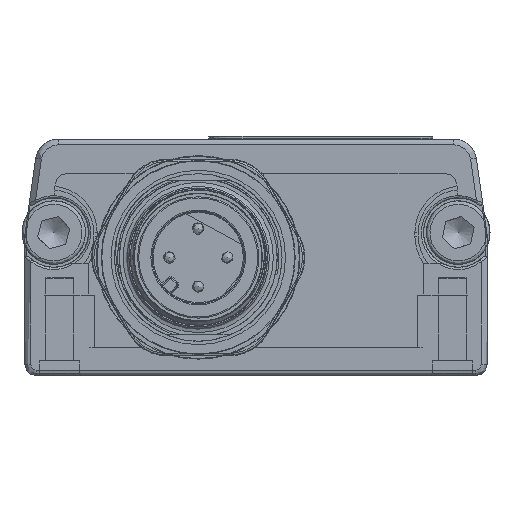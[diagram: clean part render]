
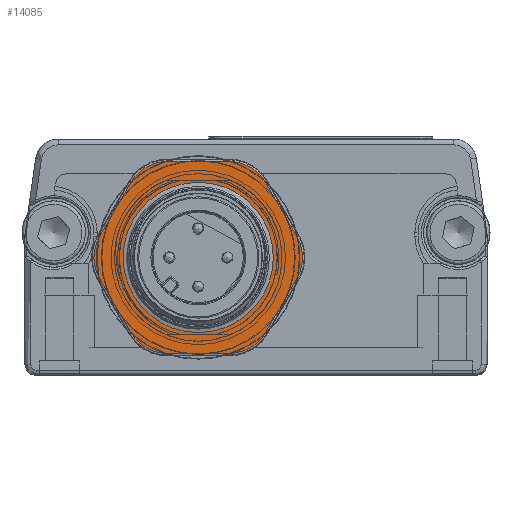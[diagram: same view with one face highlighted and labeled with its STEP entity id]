
A CAD part, front view. The second image highlights one B-rep face of the part: STEP entity #14085.
In plain terms, the highlighted planar face has unit normal (0, -1, 0).
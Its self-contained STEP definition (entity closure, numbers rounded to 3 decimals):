
#193=FACE_BOUND('',#2417,.T.);
#643=CIRCLE('',#15052,3.6);
#648=CIRCLE('',#15059,3.6);
#651=CIRCLE('',#15064,3.6);
#654=CIRCLE('',#15069,3.6);
#658=CIRCLE('',#15075,3.6);
#662=CIRCLE('',#15081,3.6);
#663=CIRCLE('',#15089,6.5);
#664=CIRCLE('',#15090,6.5);
#1107=PLANE('',#15088);
#1640=FACE_OUTER_BOUND('',#2416,.T.);
#2416=EDGE_LOOP('',(#10586,#10587,#10588,#10589,#10590,#10591,#10592,#10593,
#10594,#10595,#10596,#10597));
#2417=EDGE_LOOP('',(#10598,#10599));
#3651=LINE('',#25957,#4714);
#3652=LINE('',#25965,#4715);
#3653=LINE('',#25973,#4716);
#3654=LINE('',#25981,#4717);
#3656=LINE('',#25993,#4719);
#3657=LINE('',#26001,#4720);
#4714=VECTOR('',#17366,10.);
#4715=VECTOR('',#17377,10.);
#4716=VECTOR('',#17388,10.);
#4717=VECTOR('',#17399,10.);
#4719=VECTOR('',#17413,10.);
#4720=VECTOR('',#17424,10.);
#6051=VERTEX_POINT('',#25946);
#6052=VERTEX_POINT('',#25948);
#6054=VERTEX_POINT('',#25954);
#6055=VERTEX_POINT('',#25959);
#6056=VERTEX_POINT('',#25963);
#6057=VERTEX_POINT('',#25967);
#6058=VERTEX_POINT('',#25971);
#6059=VERTEX_POINT('',#25975);
#6060=VERTEX_POINT('',#25979);
#6061=VERTEX_POINT('',#25983);
#6063=VERTEX_POINT('',#25989);
#6065=VERTEX_POINT('',#25995);
#6067=VERTEX_POINT('',#26014);
#6068=VERTEX_POINT('',#26015);
#7679=EDGE_CURVE('',#6051,#6052,#643,.T.);
#7684=EDGE_CURVE('',#6052,#6054,#3651,.T.);
#7686=EDGE_CURVE('',#6054,#6055,#648,.T.);
#7688=EDGE_CURVE('',#6055,#6056,#3652,.T.);
#7690=EDGE_CURVE('',#6056,#6057,#651,.T.);
#7692=EDGE_CURVE('',#6057,#6058,#3653,.T.);
#7694=EDGE_CURVE('',#6058,#6059,#654,.T.);
#7696=EDGE_CURVE('',#6059,#6060,#3654,.T.);
#7699=EDGE_CURVE('',#6060,#6061,#658,.T.);
#7702=EDGE_CURVE('',#6061,#6063,#3656,.T.);
#7705=EDGE_CURVE('',#6063,#6065,#662,.T.);
#7706=EDGE_CURVE('',#6065,#6051,#3657,.T.);
#7713=EDGE_CURVE('',#6067,#6068,#663,.T.);
#7714=EDGE_CURVE('',#6068,#6067,#664,.T.);
#10586=ORIENTED_EDGE('',*,*,#7679,.F.);
#10587=ORIENTED_EDGE('',*,*,#7706,.F.);
#10588=ORIENTED_EDGE('',*,*,#7705,.F.);
#10589=ORIENTED_EDGE('',*,*,#7702,.F.);
#10590=ORIENTED_EDGE('',*,*,#7699,.F.);
#10591=ORIENTED_EDGE('',*,*,#7696,.F.);
#10592=ORIENTED_EDGE('',*,*,#7694,.F.);
#10593=ORIENTED_EDGE('',*,*,#7692,.F.);
#10594=ORIENTED_EDGE('',*,*,#7690,.F.);
#10595=ORIENTED_EDGE('',*,*,#7688,.F.);
#10596=ORIENTED_EDGE('',*,*,#7686,.F.);
#10597=ORIENTED_EDGE('',*,*,#7684,.F.);
#10598=ORIENTED_EDGE('',*,*,#7713,.F.);
#10599=ORIENTED_EDGE('',*,*,#7714,.F.);
#14085=ADVANCED_FACE('',(#1640,#193),#1107,.T.);
#15052=AXIS2_PLACEMENT_3D('',#25949,#17355,#17356);
#15059=AXIS2_PLACEMENT_3D('',#25961,#17371,#17372);
#15064=AXIS2_PLACEMENT_3D('',#25969,#17382,#17383);
#15069=AXIS2_PLACEMENT_3D('',#25977,#17393,#17394);
#15075=AXIS2_PLACEMENT_3D('',#25987,#17406,#17407);
#15081=AXIS2_PLACEMENT_3D('',#25999,#17420,#17421);
#15088=AXIS2_PLACEMENT_3D('',#26013,#17441,#17442);
#15089=AXIS2_PLACEMENT_3D('',#26016,#17443,#17444);
#15090=AXIS2_PLACEMENT_3D('',#26017,#17445,#17446);
#17355=DIRECTION('center_axis',(0.,1.,0.));
#17356=DIRECTION('ref_axis',(-0.5,0.,-0.866));
#17366=DIRECTION('',(-0.5,0.,0.866));
#17371=DIRECTION('center_axis',(0.,1.,0.));
#17372=DIRECTION('ref_axis',(-1.,0.,0.));
#17377=DIRECTION('',(0.5,0.,0.866));
#17382=DIRECTION('center_axis',(0.,1.,0.));
#17383=DIRECTION('ref_axis',(-0.5,0.,0.866));
#17388=DIRECTION('',(1.,0.,0.));
#17393=DIRECTION('center_axis',(0.,1.,0.));
#17394=DIRECTION('ref_axis',(0.5,0.,0.866));
#17399=DIRECTION('',(0.5,0.,-0.866));
#17406=DIRECTION('center_axis',(0.,1.,0.));
#17407=DIRECTION('ref_axis',(1.,0.,0.));
#17413=DIRECTION('',(-0.5,0.,-0.866));
#17420=DIRECTION('center_axis',(0.,1.,0.));
#17421=DIRECTION('ref_axis',(0.5,0.,-0.866));
#17424=DIRECTION('',(-1.,0.,0.));
#17441=DIRECTION('center_axis',(0.,-1.,0.));
#17442=DIRECTION('ref_axis',(-1.,0.,0.));
#17443=DIRECTION('center_axis',(0.,-1.,0.));
#17444=DIRECTION('ref_axis',(0.,0.,
1.));
#17445=DIRECTION('center_axis',(0.,-1.,0.));
#17446=DIRECTION('ref_axis',(0.,0.,
1.));
#25946=CARTESIAN_POINT('',(-46.428,-12.9,10.329));
#25948=CARTESIAN_POINT('',(-49.546,-12.9,12.129));
#25949=CARTESIAN_POINT('Origin',(-46.428,-12.9,13.929));
#25954=CARTESIAN_POINT('',(-52.26,-12.9,16.829));
#25957=CARTESIAN_POINT('',(-52.13,-12.9,16.604));
#25959=CARTESIAN_POINT('',(-52.26,-12.9,20.429));
#25961=CARTESIAN_POINT('Origin',(-49.142,-12.9,18.629));
#25963=CARTESIAN_POINT('',(-49.546,-12.9,25.129));
#25965=CARTESIAN_POINT('',(-49.676,-12.9,24.904));
#25967=CARTESIAN_POINT('',(-46.428,-12.9,26.929));
#25969=CARTESIAN_POINT('Origin',(-46.428,-12.9,23.329));
#25971=CARTESIAN_POINT('',(-41.001,-12.9,26.929));
#25973=CARTESIAN_POINT('',(-41.261,-12.9,26.929));
#25975=CARTESIAN_POINT('',(-37.884,-12.9,25.129));
#25977=CARTESIAN_POINT('Origin',(-41.001,-12.9,23.329));
#25979=CARTESIAN_POINT('',(-35.17,-12.9,20.429));
#25981=CARTESIAN_POINT('',(-35.3,-12.9,20.654));
#25983=CARTESIAN_POINT('',(-35.17,-12.9,16.829));
#25987=CARTESIAN_POINT('Origin',(-38.288,-12.9,18.629));
#25989=CARTESIAN_POINT('',(-37.884,-12.9,12.129));
#25993=CARTESIAN_POINT('',(-37.754,-12.9,12.354));
#25995=CARTESIAN_POINT('',(-41.001,-12.9,10.329));
#25999=CARTESIAN_POINT('Origin',(-41.001,-12.9,13.929));
#26001=CARTESIAN_POINT('',(-46.169,-12.9,10.329));
#26013=CARTESIAN_POINT('Origin',(-43.715,-12.9,18.629));
#26014=CARTESIAN_POINT('',(-43.715,-12.9,12.129));
#26015=CARTESIAN_POINT('',(-50.215,-12.9,18.629));
#26016=CARTESIAN_POINT('Origin',(-43.715,-12.9,18.629));
#26017=CARTESIAN_POINT('Origin',(-43.715,-12.9,18.629));
